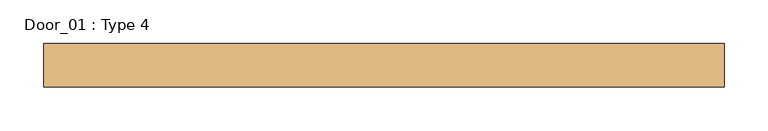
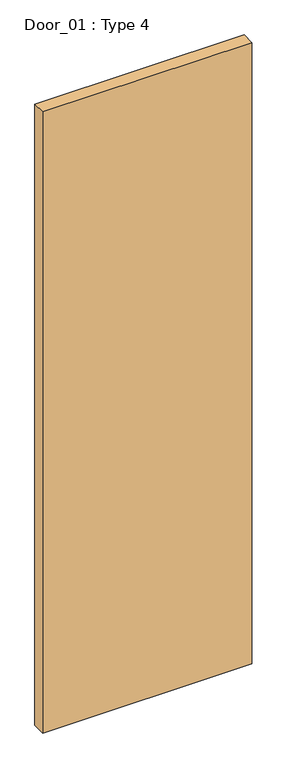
"""IFC4 building model written with IfcOpenShell, lengths in millimetres: door geometry, Door_01 : Type 4."""

from ifc_helpers import new_model, si_unit, origin, origin_with_axes, place, context, project, spatial, polyline, outline, extrude, source, transform, mapped, element, save


def door_01_type_4_ac3d37d8(model_context):
    return source(origin(), model_context, "Body", "SweptSolid", [
        extrude(outline(polyline([(390.0, -5.0), (390.0, -55.0), (-390.0, -55.0), (-390.0, -5.0), (390.0, -5.0)])), origin_with_axes(), (0.0, 0.0, 1.0), 2450.0),
    ])


if __name__ == "__main__":
    model = new_model("IFC4")
    model_context = context("Model", 3, world=origin())
    ifc_project = project(units=[si_unit("LENGTHUNIT", "METRE", prefix="MILLI")], contexts=[model_context])
    site = spatial("IfcSite", under=ifc_project)
    building = spatial("IfcBuilding", under=site)
    placement = place(None, origin())
    door_01_type_4_shape = door_01_type_4_ac3d37d8(model_context)
    element("IfcDoor", 1, ObjectType="Door_01 : Type 4", at=placement, inside=building, context=model_context, shape_type="MappedRepresentation", body=[
        mapped(door_01_type_4_shape, transform((0.0, 0.0, 0.0), x_axis=(1.0, 0.0, 0.0), y_axis=(0.0, 1.0, 0.0), z_axis=(0.0, 0.0, 1.0))),
    ])
    save(model, "model.ifc")
